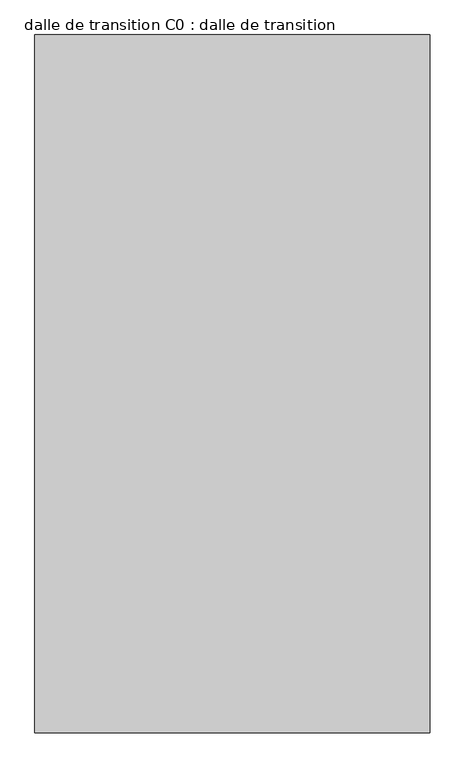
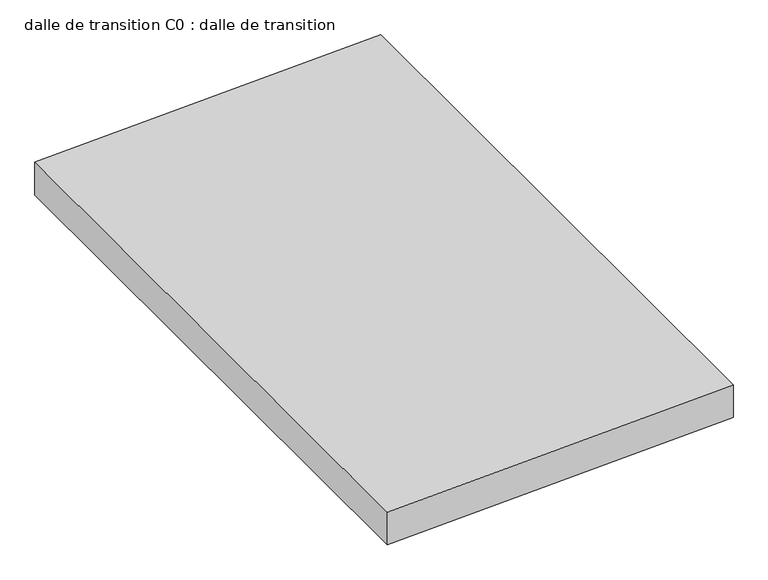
"""IFC4 building model written with IfcOpenShell, lengths in millimetres: proxy geometry, dalle de transition C0 : dalle de transition."""

from ifc_helpers import new_model, si_unit, frame, origin, place, context, project, spatial, polyline, outline, extrude, source, transform, mapped, element, save


def dalle_de_transition_c0_dalle_de_transition_33fbf230(model_context):
    return source(origin(), model_context, "Body", "SweptSolid", [
        extrude(outline(polyline([(4410.0, -7140.0), (4290.0, -10140.0), (3990.0, -10140.0), (4110.0, -7140.0), (4410.0, -7140.0)])), frame((0.0, -2650.0, 0.0), z_axis=(0.0, 1.0, 0.0), x_axis=(0.0, 0.0, 1.0)), (0.0, 0.0, 1.0), 5300.0),
    ])


if __name__ == "__main__":
    model = new_model("IFC4")
    model_context = context("Model", 3, world=origin())
    ifc_project = project(units=[si_unit("LENGTHUNIT", "METRE", prefix="MILLI")], contexts=[model_context])
    site = spatial("IfcSite", under=ifc_project)
    building = spatial("IfcBuilding", under=site)
    placement = place(None, origin())
    dalle_de_transition_c0_dalle_de_transition_shape = dalle_de_transition_c0_dalle_de_transition_33fbf230(model_context)
    element("IfcBuildingElementProxy", 1, Name="dalle de transition C0 : dalle de transition", ObjectType="dalle de transition C0 : dalle de transition", at=placement, inside=building, context=model_context, shape_type="MappedRepresentation", body=[
        mapped(dalle_de_transition_c0_dalle_de_transition_shape, transform((0.0, 0.0, 0.0), x_axis=(1.0, 0.0, 0.0), y_axis=(0.0, 1.0, 0.0), z_axis=(0.0, 0.0, 1.0))),
    ])
    save(model, "model.ifc")
